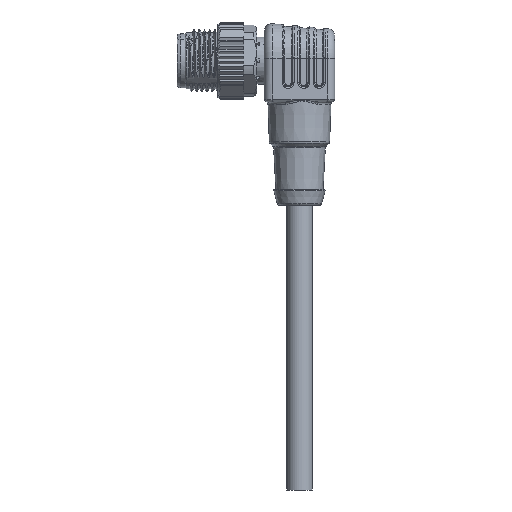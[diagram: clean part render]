
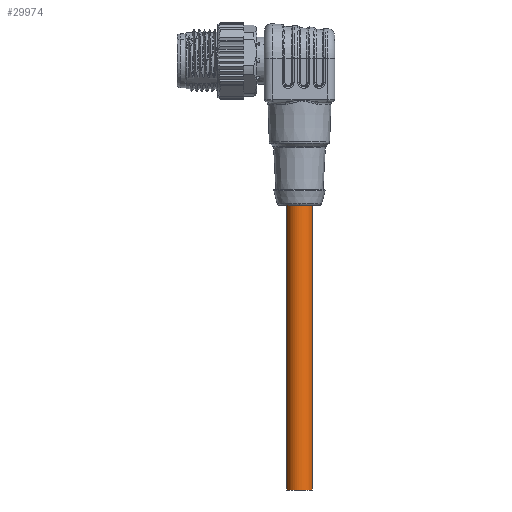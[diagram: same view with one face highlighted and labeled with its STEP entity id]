
A CAD part, front view. The second image highlights one B-rep face of the part: STEP entity #29974.
In plain terms, the highlighted cylindrical face has radius 2.5 mm (diameter 5 mm), a partial arc.
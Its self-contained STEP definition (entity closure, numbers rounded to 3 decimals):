
#232 = FACE_OUTER_BOUND ( 'NONE', #44764, .T. ) ;
#1001 = AXIS2_PLACEMENT_3D ( 'NONE', #36439, #40638, #48237 ) ;
#1158 = ORIENTED_EDGE ( 'NONE', *, *, #22956, .T. ) ;
#2121 = AXIS2_PLACEMENT_3D ( 'NONE', #12049, #36215, #44079 ) ;
#3550 = DIRECTION ( 'NONE',  ( 1., 0., 0. ) ) ;
#4322 = CARTESIAN_POINT ( 'NONE',  ( 8.3, 0., -82.95 ) ) ;
#4835 = ORIENTED_EDGE ( 'NONE', *, *, #6672, .F. ) ;
#6672 = EDGE_CURVE ( 'NONE', #30183, #28652, #37219, .T. ) ;
#8625 = CARTESIAN_POINT ( 'NONE',  ( 5.8, 0., -32.95 ) ) ;
#9478 = CARTESIAN_POINT ( 'NONE',  ( 10.8, 0., -27.95 ) ) ;
#12049 = CARTESIAN_POINT ( 'NONE',  ( 8.3, 0., -27.95 ) ) ;
#12797 = CYLINDRICAL_SURFACE ( 'NONE', #1001, 2.5 ) ;
#13846 = LINE ( 'NONE', #17519, #42951 ) ;
#15021 = ORIENTED_EDGE ( 'NONE', *, *, #49388, .T. ) ;
#15870 = DIRECTION ( 'NONE',  ( 0., 0., 1. ) ) ;
#16237 = EDGE_CURVE ( 'NONE', #30183, #49763, #33694, .T. ) ;
#17519 = CARTESIAN_POINT ( 'NONE',  ( 10.8, 0., -32.95 ) ) ;
#22956 = EDGE_CURVE ( 'NONE', #49763, #37180, #13846, .T. ) ;
#24138 = CARTESIAN_POINT ( 'NONE',  ( 10.8, 0., -82.95 ) ) ;
#24482 = CARTESIAN_POINT ( 'NONE',  ( 5.8, 0., -27.95 ) ) ;
#24643 = DIRECTION ( 'NONE',  ( 0., 0., 1. ) ) ;
#25145 = CARTESIAN_POINT ( 'NONE',  ( 5.8, 0., -82.95 ) ) ;
#27695 = ORIENTED_EDGE ( 'NONE', *, *, #16237, .T. ) ;
#28652 = VERTEX_POINT ( 'NONE', #24482 ) ;
#29974 = ADVANCED_FACE ( 'NONE', ( #232 ), #12797, .T. ) ;
#30183 = VERTEX_POINT ( 'NONE', #25145 ) ;
#32866 = AXIS2_PLACEMENT_3D ( 'NONE', #4322, #15870, #3550 ) ;
#33694 = CIRCLE ( 'NONE', #32866, 2.5 ) ;
#35642 = CIRCLE ( 'NONE', #2121, 2.5 ) ;
#36215 = DIRECTION ( 'NONE',  ( 0., 0., -1. ) ) ;
#36439 = CARTESIAN_POINT ( 'NONE',  ( 8.3, 0., -32.95 ) ) ;
#37180 = VERTEX_POINT ( 'NONE', #9478 ) ;
#37219 = LINE ( 'NONE', #8625, #51529 ) ;
#40638 = DIRECTION ( 'NONE',  ( 0., 0., -1. ) ) ;
#42951 = VECTOR ( 'NONE', #45861, 1000. ) ;
#44079 = DIRECTION ( 'NONE',  ( -1., 0., 0. ) ) ;
#44764 = EDGE_LOOP ( 'NONE', ( #1158, #15021, #4835, #27695 ) ) ;
#45861 = DIRECTION ( 'NONE',  ( 0., 0., 1. ) ) ;
#48237 = DIRECTION ( 'NONE',  ( 1., 0., 0. ) ) ;
#49388 = EDGE_CURVE ( 'NONE', #37180, #28652, #35642, .T. ) ;
#49763 = VERTEX_POINT ( 'NONE', #24138 ) ;
#51529 = VECTOR ( 'NONE', #24643, 1000. ) ;
